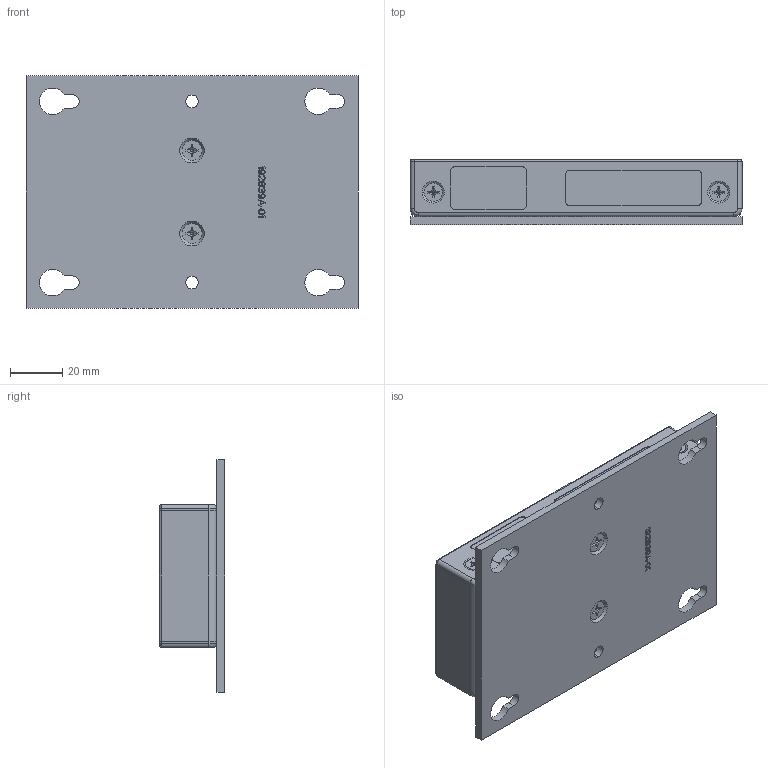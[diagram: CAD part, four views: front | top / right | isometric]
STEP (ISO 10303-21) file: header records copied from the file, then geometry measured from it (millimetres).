
FILE_DESCRIPTION((''),'2;1');
FILE_NAME('CU_CFP_PANEL_MOUNT_CONT','2007-07-16T',('chrisj'),(''),'PRO/ENGINEER BY PARAMETRIC TECHNOLOGY CORPORATION, 2006300','PRO/ENGINEER BY PARAMETRIC TECHNOLOGY CORPORATION, 2006300','');
FILE_SCHEMA(('AUTOMOTIVE_DESIGN_CC2 { 1 2 10303 214 -1 1 5 2 }'));
Length unit declared in the file: inch
Products named in the file (1): CU_CFP_PANEL_MOUNT_CONT
Bounding box: 127 x 25.08 x 88.9 mm (x, y, z)
Volume: 85131.2 mm3; surface area: 44073.7 mm2
Topology: 1 solids, 1 shells, 1422 faces, 3970 edges, 2514 vertices
Faces by surface type: plane 1164, bspline 128, cylinder 98, cone 32
Entity records: 46747 total; most frequent: CARTESIAN_POINT 11402, ORIENTED_EDGE 7700, DIRECTION 6426, EDGE_CURVE 3850, VECTOR 3486, LINE 3486, VERTEX_POINT 2628, EDGE_LOOP 1520
